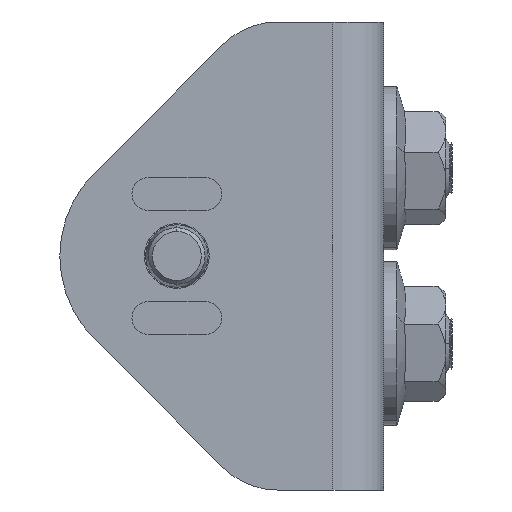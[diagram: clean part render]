
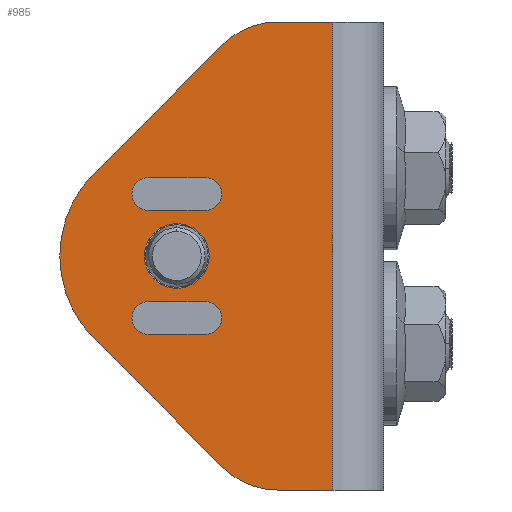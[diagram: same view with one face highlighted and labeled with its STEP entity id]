
A CAD part, left-side view. The second image highlights one B-rep face of the part: STEP entity #985.
In plain terms, the highlighted planar face has unit normal (-1, 0, 0).
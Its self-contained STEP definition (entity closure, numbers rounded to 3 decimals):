
#985=ADVANCED_FACE('NONE',(#2464,#2465,#2466,#2467),#2468,.T.);
#2464=FACE_OUTER_BOUND('',#4780,.T.);
#2465=FACE_BOUND('',#4781,.T.);
#2466=FACE_BOUND('',#4782,.T.);
#2467=FACE_BOUND('',#4783,.T.);
#2468=PLANE('',#4784);
#4780=EDGE_LOOP('',(#8457,#8458,#8459,#8460,#8461,#8462,#8463,#8464,#8465));
#4781=EDGE_LOOP('',(#8466,#8467));
#4782=EDGE_LOOP('',(#8468,#8469,#8470,#8471,#8472,#8473));
#4783=EDGE_LOOP('',(#8474,#8475,#8476,#8477,#8478,#8479));
#4784=AXIS2_PLACEMENT_3D('',#8480,#8481,#8482);
#8457=ORIENTED_EDGE('',*,*,#13780,.F.);
#8458=ORIENTED_EDGE('',*,*,#13389,.T.);
#8459=ORIENTED_EDGE('',*,*,#13209,.T.);
#8460=ORIENTED_EDGE('',*,*,#13781,.T.);
#8461=ORIENTED_EDGE('',*,*,#13454,.T.);
#8462=ORIENTED_EDGE('',*,*,#13782,.T.);
#8463=ORIENTED_EDGE('',*,*,#13783,.T.);
#8464=ORIENTED_EDGE('',*,*,#13627,.T.);
#8465=ORIENTED_EDGE('',*,*,#13784,.T.);
#8466=ORIENTED_EDGE('',*,*,#13785,.F.);
#8467=ORIENTED_EDGE('',*,*,#13786,.F.);
#8468=ORIENTED_EDGE('',*,*,#13787,.F.);
#8469=ORIENTED_EDGE('',*,*,#13788,.F.);
#8470=ORIENTED_EDGE('',*,*,#13789,.F.);
#8471=ORIENTED_EDGE('',*,*,#13790,.F.);
#8472=ORIENTED_EDGE('',*,*,#13791,.F.);
#8473=ORIENTED_EDGE('',*,*,#13792,.F.);
#8474=ORIENTED_EDGE('',*,*,#13793,.F.);
#8475=ORIENTED_EDGE('',*,*,#13794,.F.);
#8476=ORIENTED_EDGE('',*,*,#13795,.F.);
#8477=ORIENTED_EDGE('',*,*,#13566,.F.);
#8478=ORIENTED_EDGE('',*,*,#13796,.F.);
#8479=ORIENTED_EDGE('',*,*,#13797,.F.);
#8480=CARTESIAN_POINT('',(0.,-12.929,-20.0));
#8481=DIRECTION('',(-1.0,0.,0.));
#8482=DIRECTION('',(0.,1.0,0.0));
#13209=EDGE_CURVE('NONE',#15588,#15589,#15590,.T.);
#13389=EDGE_CURVE('NONE',#15902,#15588,#15905,.T.);
#13454=EDGE_CURVE('NONE',#16021,#16018,#16022,.T.);
#13566=EDGE_CURVE('NONE',#16207,#16208,#16209,.T.);
#13627=EDGE_CURVE('NONE',#16308,#16309,#16310,.T.);
#13780=EDGE_CURVE('NONE',#15902,#16551,#16552,.T.);
#13781=EDGE_CURVE('NONE',#15589,#16021,#16553,.T.);
#13782=EDGE_CURVE('NONE',#16018,#16554,#16555,.T.);
#13783=EDGE_CURVE('NONE',#16554,#16308,#16556,.T.);
#13784=EDGE_CURVE('NONE',#16309,#16551,#16557,.T.);
#13785=EDGE_CURVE('NONE',#16558,#16559,#16560,.T.);
#13786=EDGE_CURVE('NONE',#16559,#16558,#16561,.T.);
#13787=EDGE_CURVE('NONE',#16562,#16563,#16564,.T.);
#13788=EDGE_CURVE('NONE',#16565,#16562,#16566,.T.);
#13789=EDGE_CURVE('NONE',#16567,#16565,#16568,.T.);
#13790=EDGE_CURVE('NONE',#16569,#16567,#16570,.T.);
#13791=EDGE_CURVE('NONE',#16571,#16569,#16572,.T.);
#13792=EDGE_CURVE('NONE',#16563,#16571,#16573,.T.);
#13793=EDGE_CURVE('NONE',#16574,#16575,#16576,.T.);
#13794=EDGE_CURVE('NONE',#16577,#16574,#16578,.T.);
#13795=EDGE_CURVE('NONE',#16208,#16577,#16579,.T.);
#13796=EDGE_CURVE('NONE',#16580,#16207,#16581,.T.);
#13797=EDGE_CURVE('NONE',#16575,#16580,#16582,.T.);
#15588=VERTEX_POINT('NONE',#19249);
#15589=VERTEX_POINT('NONE',#19250);
#15590=CIRCLE('',#19251,10.0);
#15902=VERTEX_POINT('NONE',#19834);
#15905=LINE('',#19839,#19840);
#16018=VERTEX_POINT('',#20222);
#16021=VERTEX_POINT('NONE',#20226);
#16022=CIRCLE('',#20227,15.0);
#16207=VERTEX_POINT('NONE',#20626);
#16208=VERTEX_POINT('NONE',#20627);
#16209=LINE('',#20628,#20629);
#16308=VERTEX_POINT('NONE',#20790);
#16309=VERTEX_POINT('NONE',#20791);
#16310=CIRCLE('',#20792,10.0);
#16551=VERTEX_POINT('NONE',#21620);
#16552=LINE('',#21621,#21622);
#16553=LINE('',#21623,#21624);
#16554=VERTEX_POINT('NONE',#21625);
#16555=CIRCLE('',#21626,15.0);
#16556=LINE('',#21627,#21628);
#16557=LINE('',#21629,#21630);
#16558=VERTEX_POINT('NONE',#21631);
#16559=VERTEX_POINT('NONE',#21632);
#16560=CIRCLE('',#21633,4.15);
#16561=CIRCLE('',#21634,4.15);
#16562=VERTEX_POINT('NONE',#21635);
#16563=VERTEX_POINT('NONE',#21636);
#16564=LINE('',#21637,#21638);
#16565=VERTEX_POINT('',#21639);
#16566=CIRCLE('',#21640,2.1);
#16567=VERTEX_POINT('NONE',#21641);
#16568=CIRCLE('',#21642,2.1);
#16569=VERTEX_POINT('NONE',#21643);
#16570=LINE('',#21644,#21645);
#16571=VERTEX_POINT('NONE',#21646);
#16572=CIRCLE('',#21647,2.1);
#16573=CIRCLE('',#21648,2.1);
#16574=VERTEX_POINT('NONE',#21649);
#16575=VERTEX_POINT('NONE',#21650);
#16576=LINE('',#21651,#21652);
#16577=VERTEX_POINT('NONE',#21653);
#16578=CIRCLE('',#21654,2.1);
#16579=CIRCLE('',#21655,2.1);
#16580=VERTEX_POINT('',#21656);
#16581=CIRCLE('',#21657,2.1);
#16582=CIRCLE('',#21658,2.1);
#19249=CARTESIAN_POINT('',(0.,-12.929,30.0));
#19250=CARTESIAN_POINT('',(0.,-5.858,27.071));
#19251=AXIS2_PLACEMENT_3D('',#26383,#26384,#26385);
#19834=CARTESIAN_POINT('',(0.,-20.0,30.0));
#19839=CARTESIAN_POINT('',(0.,-57.569,30.0));
#19840=VECTOR('',#26599,1000.0);
#20222=CARTESIAN_POINT('',(0.,15.0,0.));
#20226=CARTESIAN_POINT('',(0.,10.607,10.607));
#20227=AXIS2_PLACEMENT_3D('',#26645,#26646,#26647);
#20626=CARTESIAN_POINT('',(0.,-3.65,10.05));
#20627=CARTESIAN_POINT('',(0.,3.65,10.05));
#20628=CARTESIAN_POINT('',(0.,3.65,10.05));
#20629=VECTOR('',#26778,1000.0);
#20790=CARTESIAN_POINT('',(0.,-5.858,-27.071));
#20791=CARTESIAN_POINT('',(0.,-12.929,-30.0));
#20792=AXIS2_PLACEMENT_3D('',#26859,#26860,#26861);
#21620=CARTESIAN_POINT('',(0.,-20.0,-30.0));
#21621=CARTESIAN_POINT('',(0.,-20.0,-20.0));
#21622=VECTOR('',#26973,1000.0);
#21623=CARTESIAN_POINT('',(0.,-5.858,27.071));
#21624=VECTOR('',#26974,1000.0);
#21625=CARTESIAN_POINT('',(0.,10.607,-10.607));
#21626=AXIS2_PLACEMENT_3D('',#26975,#26976,#26977);
#21627=CARTESIAN_POINT('',(0.,10.607,-10.607));
#21628=VECTOR('',#26978,1000.0);
#21629=CARTESIAN_POINT('',(0.,-12.929,-30.0));
#21630=VECTOR('',#26979,1000.0);
#21631=CARTESIAN_POINT('',(0.,0.,4.15));
#21632=CARTESIAN_POINT('',(0.,0.,-4.15));
#21633=AXIS2_PLACEMENT_3D('',#26980,#26981,#26982);
#21634=AXIS2_PLACEMENT_3D('',#26983,#26984,#26985);
#21635=CARTESIAN_POINT('',(0.,-3.65,-5.85));
#21636=CARTESIAN_POINT('',(0.,3.65,-5.85));
#21637=CARTESIAN_POINT('',(0.,3.65,-5.85));
#21638=VECTOR('',#26986,1000.0);
#21639=CARTESIAN_POINT('',(0.,-5.75,-7.95));
#21640=AXIS2_PLACEMENT_3D('',#26987,#26988,#26989);
#21641=CARTESIAN_POINT('',(0.,-3.65,-10.05));
#21642=AXIS2_PLACEMENT_3D('',#26990,#26991,#26992);
#21643=CARTESIAN_POINT('',(0.,3.65,-10.05));
#21644=CARTESIAN_POINT('',(0.,-3.65,-10.05));
#21645=VECTOR('',#26993,1000.0);
#21646=CARTESIAN_POINT('',(0.,5.75,-7.95));
#21647=AXIS2_PLACEMENT_3D('',#26994,#26995,#26996);
#21648=AXIS2_PLACEMENT_3D('',#26997,#26998,#26999);
#21649=CARTESIAN_POINT('',(0.,3.65,5.85));
#21650=CARTESIAN_POINT('',(0.,-3.65,5.85));
#21651=CARTESIAN_POINT('',(0.,-3.65,5.85));
#21652=VECTOR('',#27000,1000.0);
#21653=CARTESIAN_POINT('',(0.,5.75,7.95));
#21654=AXIS2_PLACEMENT_3D('',#27001,#27002,#27003);
#21655=AXIS2_PLACEMENT_3D('',#27004,#27005,#27006);
#21656=CARTESIAN_POINT('',(0.,-5.75,7.95));
#21657=AXIS2_PLACEMENT_3D('',#27007,#27008,#27009);
#21658=AXIS2_PLACEMENT_3D('',#27010,#27011,#27012);
#26383=CARTESIAN_POINT('',(0.,-12.929,20.0));
#26384=DIRECTION('',(-1.0,0.,0.));
#26385=DIRECTION('',(0.,-1.0,0.0));
#26599=DIRECTION('',(0.,1.0,0.));
#26645=CARTESIAN_POINT('',(0.,0.0,0.));
#26646=DIRECTION('',(-1.0,0.,0.));
#26647=DIRECTION('',(0.,-1.0,0.));
#26778=DIRECTION('',(0.,1.0,0.));
#26859=CARTESIAN_POINT('',(0.,-12.929,-20.0));
#26860=DIRECTION('',(-1.0,0.,0.));
#26861=DIRECTION('',(0.,-1.0,0.));
#26973=DIRECTION('',(0.,0.,-1.0));
#26974=DIRECTION('',(0.,0.707,-0.707));
#26975=CARTESIAN_POINT('',(0.,0.0,0.));
#26976=DIRECTION('',(-1.0,0.,0.));
#26977=DIRECTION('',(0.,-1.0,0.));
#26978=DIRECTION('',(0.,-0.707,-0.707));
#26979=DIRECTION('',(0.,-1.0,0.));
#26980=CARTESIAN_POINT('',(0.,0.0,0.));
#26981=DIRECTION('',(-1.0,0.,0.));
#26982=DIRECTION('',(0.,-1.0,0.));
#26983=CARTESIAN_POINT('',(0.,0.0,0.));
#26984=DIRECTION('',(-1.0,0.,0.));
#26985=DIRECTION('',(0.,-1.0,0.));
#26986=DIRECTION('',(0.,1.0,0.));
#26987=CARTESIAN_POINT('',(0.,-3.65,-7.95));
#26988=DIRECTION('',(-1.0,0.,0.));
#26989=DIRECTION('',(0.,1.0,0.0));
#26990=CARTESIAN_POINT('',(0.,-3.65,-7.95));
#26991=DIRECTION('',(-1.0,0.,0.));
#26992=DIRECTION('',(0.,1.0,0.0));
#26993=DIRECTION('',(0.,-1.0,0.));
#26994=CARTESIAN_POINT('',(0.,3.65,-7.95));
#26995=DIRECTION('',(-1.0,0.,0.));
#26996=DIRECTION('',(0.,1.0,0.0));
#26997=CARTESIAN_POINT('',(0.,3.65,-7.95));
#26998=DIRECTION('',(-1.0,0.,0.));
#26999=DIRECTION('',(0.,1.0,0.0));
#27000=DIRECTION('',(0.,-1.0,0.));
#27001=CARTESIAN_POINT('',(0.,3.65,7.95));
#27002=DIRECTION('',(-1.0,0.,0.));
#27003=DIRECTION('',(0.,1.0,0.0));
#27004=CARTESIAN_POINT('',(0.,3.65,7.95));
#27005=DIRECTION('',(-1.0,0.,0.));
#27006=DIRECTION('',(0.,1.0,0.0));
#27007=CARTESIAN_POINT('',(0.,-3.65,7.95));
#27008=DIRECTION('',(-1.0,0.,0.));
#27009=DIRECTION('',(0.,1.0,0.0));
#27010=CARTESIAN_POINT('',(0.,-3.65,7.95));
#27011=DIRECTION('',(-1.0,0.,0.));
#27012=DIRECTION('',(0.,1.0,0.0));
